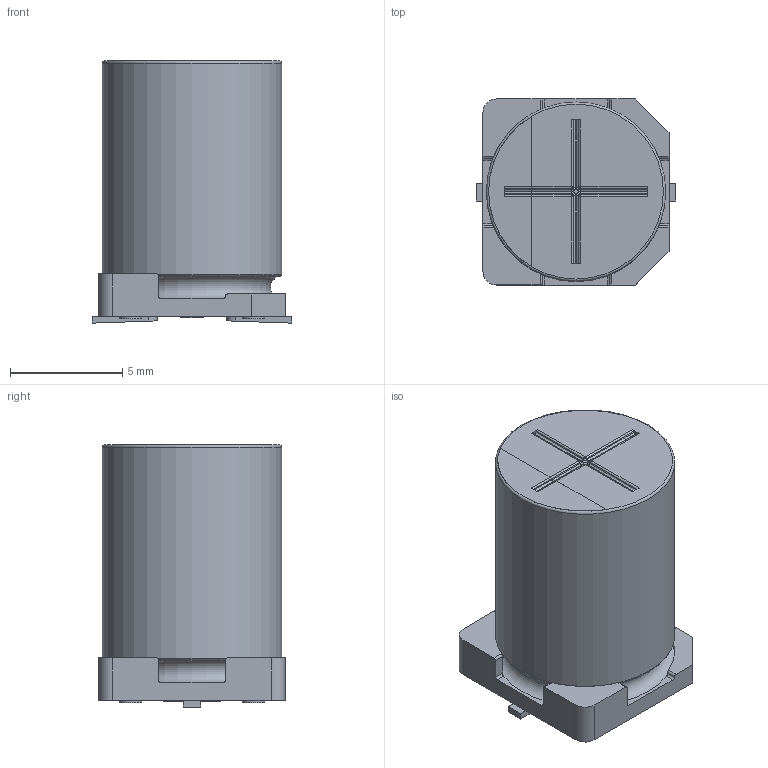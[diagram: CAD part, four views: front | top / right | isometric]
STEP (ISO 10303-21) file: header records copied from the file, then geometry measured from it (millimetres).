
FILE_DESCRIPTION(/* description */ (''),/* implementation_level */ '2;1');
FILE_NAME(/* name */ '8x11.7_Chip.stp',/* time_stamp */ '2017-09-11T19:29:24+09:00',/* author */ (''),/* organization */ (''),/* preprocessor_version */ 'ST-DEVELOPER v16',/* originating_system */ 'SIEMENS PLM Software NX 11.0',/* authorisation */ '');
FILE_SCHEMA (('AUTOMOTIVE_DESIGN { 1 0 10303 214 3 1 1 1 }'));
Length unit declared in the file: millimetre
Products named in the file (1): 8x11.7_Chip_0
Bounding box: 8.9 x 8.3 x 11.7 mm (x, y, z)
Volume: 587.3 mm3; surface area: 591.5 mm2
Topology: 5 solids, 5 shells, 132 faces, 330 edges, 210 vertices
Faces by surface type: plane 61, cylinder 60, sphere 4, bspline 4, torus 3
Full cylindrical faces by diameter (mm): 1 x4, 8 x1
Entity records: 4212 total; most frequent: CARTESIAN_POINT 919, DIRECTION 670, ORIENTED_EDGE 634, EDGE_CURVE 317, AXIS2_PLACEMENT_3D 240, VERTEX_POINT 209, LINE 190, VECTOR 190
